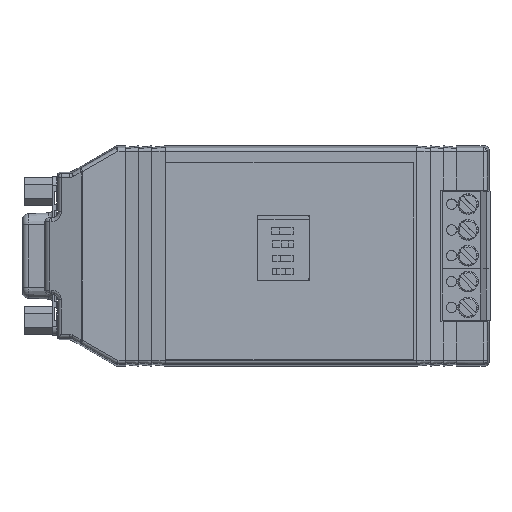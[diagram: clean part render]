
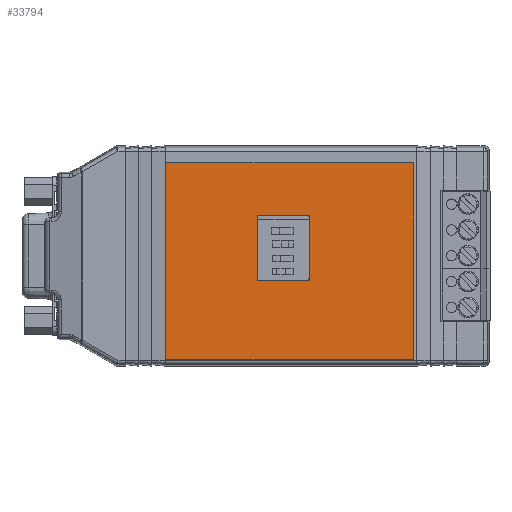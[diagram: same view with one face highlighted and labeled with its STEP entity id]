
A CAD part, top view. The second image highlights one B-rep face of the part: STEP entity #33794.
In plain terms, the highlighted planar face has unit normal (0, 0, 1).
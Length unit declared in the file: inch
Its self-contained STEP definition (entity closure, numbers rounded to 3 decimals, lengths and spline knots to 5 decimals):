
#172 = CARTESIAN_POINT ( 'NONE',  ( 7.66348, 3.60494, 0.45517 ) ) ;
#313 = ORIENTED_EDGE ( 'NONE', *, *, #30066, .F. ) ;
#1618 = VECTOR ( 'NONE', #30659, 39.37008 ) ;
#2280 = CARTESIAN_POINT ( 'NONE',  ( 7.26348, 4.10494, 0.45517 ) ) ;
#2550 = LINE ( 'NONE', #28512, #9043 ) ;
#2927 = VERTEX_POINT ( 'NONE', #38670 ) ;
#3232 = LINE ( 'NONE', #5997, #10726 ) ;
#3638 = ORIENTED_EDGE ( 'NONE', *, *, #5890, .F. ) ;
#5698 = VECTOR ( 'NONE', #17729, 39.37008 ) ;
#5890 = EDGE_CURVE ( 'NONE', #39532, #33136, #3232, .T. ) ;
#5997 = CARTESIAN_POINT ( 'NONE',  ( 7.66348, 4.10494, 0.45517 ) ) ;
#6264 = DIRECTION ( 'NONE',  ( -1., 0., 0. ) ) ;
#7541 = EDGE_LOOP ( 'NONE', ( #25969, #38976, #29158, #31026 ) ) ;
#8071 = LINE ( 'NONE', #25464, #25135 ) ;
#9043 = VECTOR ( 'NONE', #31765, 39.37008 ) ;
#9293 = FACE_OUTER_BOUND ( 'NONE', #7541, .T. ) ;
#10726 = VECTOR ( 'NONE', #25188, 39.37008 ) ;
#12202 = CARTESIAN_POINT ( 'NONE',  ( 7.50848, 3.75494, 0.45517 ) ) ;
#12654 = LINE ( 'NONE', #34935, #37293 ) ;
#14200 = LINE ( 'NONE', #24038, #5698 ) ;
#14922 = VERTEX_POINT ( 'NONE', #15629 ) ;
#15333 = EDGE_CURVE ( 'NONE', #16109, #29434, #21157, .T. ) ;
#15448 = DIRECTION ( 'NONE',  ( 1., 0., 0. ) ) ;
#15629 = CARTESIAN_POINT ( 'NONE',  ( 6.56348, 3.00494, 0.45517 ) ) ;
#16025 = VECTOR ( 'NONE', #19677, 39.37008 ) ;
#16109 = VERTEX_POINT ( 'NONE', #31985 ) ;
#17729 = DIRECTION ( 'NONE',  ( 1., 0., 0. ) ) ;
#18523 = ORIENTED_EDGE ( 'NONE', *, *, #30281, .F. ) ;
#18526 = PLANE ( 'NONE',  #29803 ) ;
#19060 = EDGE_LOOP ( 'NONE', ( #40338, #18523, #3638, #313 ) ) ;
#19677 = DIRECTION ( 'NONE',  ( 0., -1., 0. ) ) ;
#20628 = VERTEX_POINT ( 'NONE', #2280 ) ;
#20720 = EDGE_CURVE ( 'NONE', #20628, #2927, #40685, .T. ) ;
#21157 = LINE ( 'NONE', #24411, #37247 ) ;
#21723 = CARTESIAN_POINT ( 'NONE',  ( 6.56348, 4.50494, 0.45517 ) ) ;
#24038 = CARTESIAN_POINT ( 'NONE',  ( 6.56348, 3.00494, 0.45517 ) ) ;
#24329 = FACE_BOUND ( 'NONE', #19060, .T. ) ;
#24411 = CARTESIAN_POINT ( 'NONE',  ( 6.56348, 4.50494, 0.45517 ) ) ;
#25135 = VECTOR ( 'NONE', #6264, 39.37008 ) ;
#25188 = DIRECTION ( 'NONE',  ( 0., 1., 0. ) ) ;
#25464 = CARTESIAN_POINT ( 'NONE',  ( 7.26348, 4.10494, 0.45517 ) ) ;
#25969 = ORIENTED_EDGE ( 'NONE', *, *, #30768, .T. ) ;
#27443 = CARTESIAN_POINT ( 'NONE',  ( 7.26348, 3.60494, 0.45517 ) ) ;
#28512 = CARTESIAN_POINT ( 'NONE',  ( 6.56348, 4.50494, 0.45517 ) ) ;
#29158 = ORIENTED_EDGE ( 'NONE', *, *, #34419, .T. ) ;
#29434 = VERTEX_POINT ( 'NONE', #21723 ) ;
#29803 = AXIS2_PLACEMENT_3D ( 'NONE', #12202, #34708, #15448 ) ;
#30066 = EDGE_CURVE ( 'NONE', #2927, #39532, #35770, .T. ) ;
#30281 = EDGE_CURVE ( 'NONE', #33136, #20628, #8071, .T. ) ;
#30659 = DIRECTION ( 'NONE',  ( 1., 0., 0. ) ) ;
#30768 = EDGE_CURVE ( 'NONE', #29434, #14922, #2550, .T. ) ;
#31026 = ORIENTED_EDGE ( 'NONE', *, *, #15333, .T. ) ;
#31594 = CARTESIAN_POINT ( 'NONE',  ( 8.45348, 3.00494, 0.45517 ) ) ;
#31765 = DIRECTION ( 'NONE',  ( 0., -1., 0. ) ) ;
#31985 = CARTESIAN_POINT ( 'NONE',  ( 8.45348, 4.50494, 0.45517 ) ) ;
#33136 = VERTEX_POINT ( 'NONE', #40402 ) ;
#33794 = ADVANCED_FACE ( 'NONE', ( #24329, #9293 ), #18526, .T. ) ;
#34132 = DIRECTION ( 'NONE',  ( -1., 0., 0. ) ) ;
#34419 = EDGE_CURVE ( 'NONE', #37202, #16109, #12654, .T. ) ;
#34708 = DIRECTION ( 'NONE',  ( 0., 0., 1. ) ) ;
#34935 = CARTESIAN_POINT ( 'NONE',  ( 8.45348, 4.50494, 0.45517 ) ) ;
#35770 = LINE ( 'NONE', #27443, #1618 ) ;
#37202 = VERTEX_POINT ( 'NONE', #31594 ) ;
#37247 = VECTOR ( 'NONE', #34132, 39.37008 ) ;
#37293 = VECTOR ( 'NONE', #38170, 39.37008 ) ;
#38170 = DIRECTION ( 'NONE',  ( 0., 1., 0. ) ) ;
#38670 = CARTESIAN_POINT ( 'NONE',  ( 7.26348, 3.60494, 0.45517 ) ) ;
#38924 = CARTESIAN_POINT ( 'NONE',  ( 7.26348, 4.10494, 0.45517 ) ) ;
#38976 = ORIENTED_EDGE ( 'NONE', *, *, #40408, .T. ) ;
#39532 = VERTEX_POINT ( 'NONE', #172 ) ;
#40338 = ORIENTED_EDGE ( 'NONE', *, *, #20720, .F. ) ;
#40402 = CARTESIAN_POINT ( 'NONE',  ( 7.66348, 4.10494, 0.45517 ) ) ;
#40408 = EDGE_CURVE ( 'NONE', #14922, #37202, #14200, .T. ) ;
#40685 = LINE ( 'NONE', #38924, #16025 ) ;
